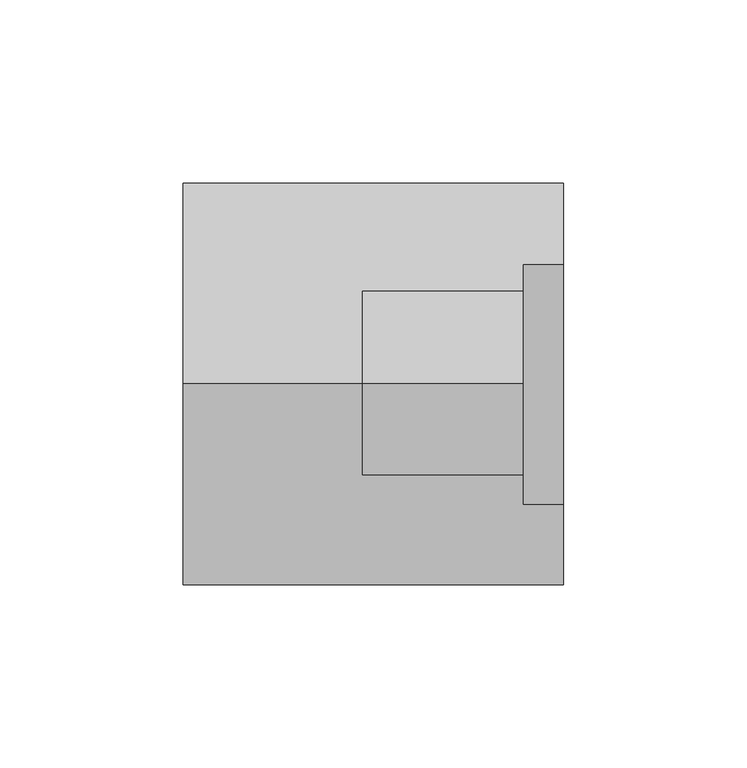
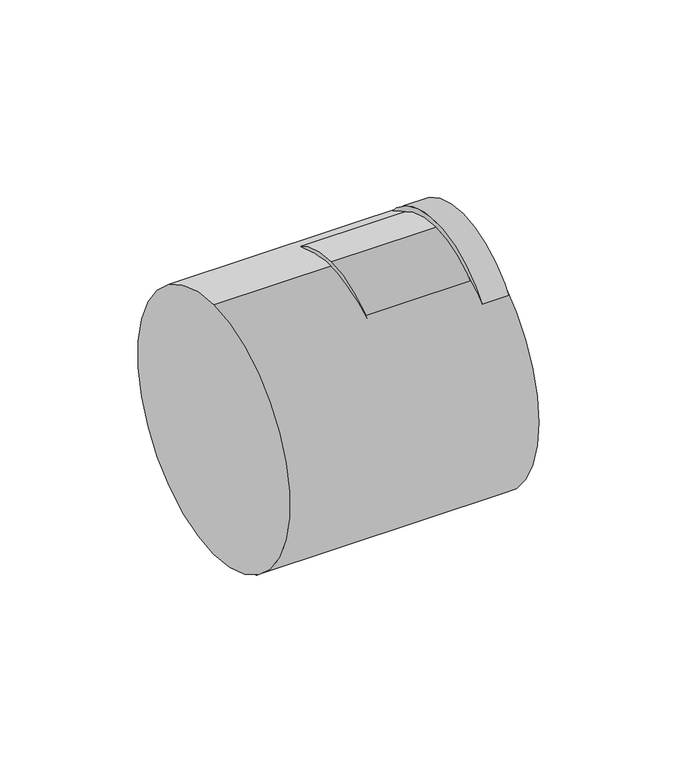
"""IFC4 building model written with IfcOpenShell, lengths in millimetres: pipe fitting geometry, Superdrain SKR-short reducer : Superdrain SKR-short reducer."""

from ifc_helpers import new_model, si_unit, point, frame, frame_2d, origin, place, context, project, spatial, polyline, circle_curve, trimmed, segment, composite_curve, outline, extrude, source, transform, mapped, element, save
from ifc_brep_helpers import plane_surface, cylinder_surface, revolved_surface, advanced_brep


def pipe_fitting_ceba5c8c(model_context):
    return source(origin(), model_context, "Body", "SolidModel", [
        extrude(outline(composite_curve([segment(trimmed(circle_curve(frame_2d((0.0, 16.0)), 42.9975), [point((-42.9975, 16.0))], [point((42.9975, 16.0))], False, "CARTESIAN"), True, "CONTINUOUS"), segment(trimmed(circle_curve(frame_2d((0.0, 16.0)), 42.9975), [point((42.9975, 16.0))], [point((-42.9975, 16.0))], False, "CARTESIAN"), True, "CONTINUOUS")], self_intersect=False), holes=[composite_curve([segment(trimmed(circle_curve(frame_2d((0.0, 16.0)), 39.0), [point((39.0, 16.0))], [point((-39.0, 16.0))], True, "CARTESIAN"), True, "CONTINUOUS"), segment(trimmed(circle_curve(frame_2d((0.0, 16.0)), 39.0), [point((-39.0, 16.0))], [point((39.0, 16.0))], True, "CARTESIAN"), True, "CONTINUOUS")], self_intersect=False)]), frame((99.5, 0.0, 0.0), z_axis=(1.0, 0.0, 0.0), x_axis=(0.0, 1.0, 0.0)), (0.0, 0.0, 1.0), 11.0),
        extrude(outline(composite_curve([segment(trimmed(circle_curve(frame_2d((0.0, 16.0)), 40.95), [point((0.0, 56.95))], [point((0.0, -24.95))], False, "CARTESIAN"), True, "CONTINUOUS"), segment(trimmed(circle_curve(frame_2d((0.0, 16.0)), 40.95), [point((0.0, -24.95))], [point((0.0, 56.95))], False, "CARTESIAN"), True, "CONTINUOUS")], self_intersect=False), holes=[composite_curve([segment(trimmed(circle_curve(frame_2d((0.0, 16.0)), 39.0), [point((39.0, 16.0))], [point((-39.0, 16.0))], True, "CARTESIAN"), True, "CONTINUOUS"), segment(trimmed(circle_curve(frame_2d((0.0, 16.0)), 39.0), [point((-39.0, 16.0))], [point((39.0, 16.0))], True, "CARTESIAN"), True, "CONTINUOUS")], self_intersect=False)]), frame((55.5, 0.0, 0.0), z_axis=(1.0, 0.0, 0.0), x_axis=(0.0, 1.0, 0.0)), (0.0, 0.0, 1.0), 55.0),
        advanced_brep(
        [(6.5, 0.0, 55.0), (6.5, 0.0, -55.0), (110.5, 0.0, 55.0), (110.5, 0.0, -55.0), (110.5, 39.0, 16.0), (110.5, -39.0, 16.0), (55.5, 0.0, 55.0), (55.5, -39.0, 16.0), (55.5, 39.0, 16.0), (55.5, 0.0, 55.0)],
        [
            (0, 1, circle_curve(frame((6.5, 0.0, 0.0), z_axis=(-1.0, 0.0, 0.0), x_axis=(0.0, 0.0, -1.0)), 55.0)),
            (1, 0, circle_curve(frame((6.5, 0.0, 0.0), z_axis=(-1.0, 0.0, 0.0), x_axis=(0.0, 0.0, -1.0)), 55.0)),
            (2, 3, circle_curve(frame((110.5, 0.0, 0.0), z_axis=(1.0, 0.0, 0.0), x_axis=(0.0, 0.0, -1.0)), 55.0)),
            (3, 2, circle_curve(frame((110.5, 0.0, 0.0), z_axis=(1.0, 0.0, 0.0), x_axis=(0.0, 0.0, -1.0)), 55.0)),
            (2, 4, circle_curve(frame((110.5, 0.0, 16.0), z_axis=(-1.0, 0.0, 0.0), x_axis=(0.0, -1.0, 0.0)), 39.0)),
            (4, 5, circle_curve(frame((110.5, 0.0, 16.0), z_axis=(-1.0, 0.0, 0.0), x_axis=(0.0, -1.0, 0.0)), 39.0)),
            (5, 2, circle_curve(frame((110.5, 0.0, 16.0), z_axis=(-1.0, 0.0, 0.0), x_axis=(0.0, -1.0, 0.0)), 39.0)),
            (0, 6),
            (6, 2),
            (3, 1),
            (7, 8, circle_curve(frame((55.5, 0.0, 16.0), z_axis=(1.0, 0.0, 0.0), x_axis=(0.0, -1.0, 0.0)), 39.0)),
            (8, 9, circle_curve(frame((55.5, 0.0, 16.0), z_axis=(1.0, 0.0, 0.0), x_axis=(0.0, -1.0, 0.0)), 39.0)),
            (9, 7, circle_curve(frame((55.5, 0.0, 16.0), z_axis=(1.0, 0.0, 0.0), x_axis=(0.0, -1.0, 0.0)), 39.0)),
            (5, 7),
            (8, 4),
        ],
        [
            plane_surface(frame((6.5, 0.0, 0.0), z_axis=(-1.0, 0.0, 0.0), x_axis=(0.0, 1.0, 0.0))),
            plane_surface(frame((110.5, 0.0, 0.0), z_axis=(1.0, 0.0, 0.0), x_axis=(0.0, 1.0, 0.0))),
            cylinder_surface(frame((6.5, 0.0, 0.0), z_axis=(-1.0, 0.0, 0.0), x_axis=(0.0, 0.0, -1.0)), 55.0),
            plane_surface(frame((55.5, 0.0, 0.0), z_axis=(1.0, 0.0, 0.0), x_axis=(0.0, 0.0, 1.0))),
            revolved_surface(polyline([(110.5, -39.0, 16.0), (55.5, -39.0, 16.0)]), (110.5, 0.0, 16.0), (1.0, 0.0, 0.0)),
        ],
        [
            (0, [[1, 2]]),
            (1, [[3, 4, 5, 6, 7]]),
            (2, [[-1, 8, 9, -4, 10]]),
            (2, [[-2, -10, -3, -9, -8]]),
            (3, [[11, 12, 13]]),
            (4, [[14, -13, -12, 15, -5, -7]]),
            (4, [[-11, -14, -6, -15]]),
        ],
    ),
    ])


if __name__ == "__main__":
    model = new_model("IFC4")
    model_context = context("Model", 3, world=origin())
    ifc_project = project(units=[si_unit("LENGTHUNIT", "METRE", prefix="MILLI")], contexts=[model_context])
    site = spatial("IfcSite", under=ifc_project)
    building = spatial("IfcBuilding", under=site)
    placement = place(None, origin())
    pipe_fitting_shape = pipe_fitting_ceba5c8c(model_context)
    element("IfcPipeFitting", 1, ObjectType="Superdrain SKR-short reducer : Superdrain SKR-short reducer", at=placement, inside=building, context=model_context, shape_type="MappedRepresentation", body=[
        mapped(pipe_fitting_shape, transform((0.0, 0.0, 0.0), x_axis=(1.0, 0.0, 0.0), y_axis=(0.0, 1.0, 0.0), z_axis=(0.0, 0.0, 1.0))),
    ])
    save(model, "model.ifc")
